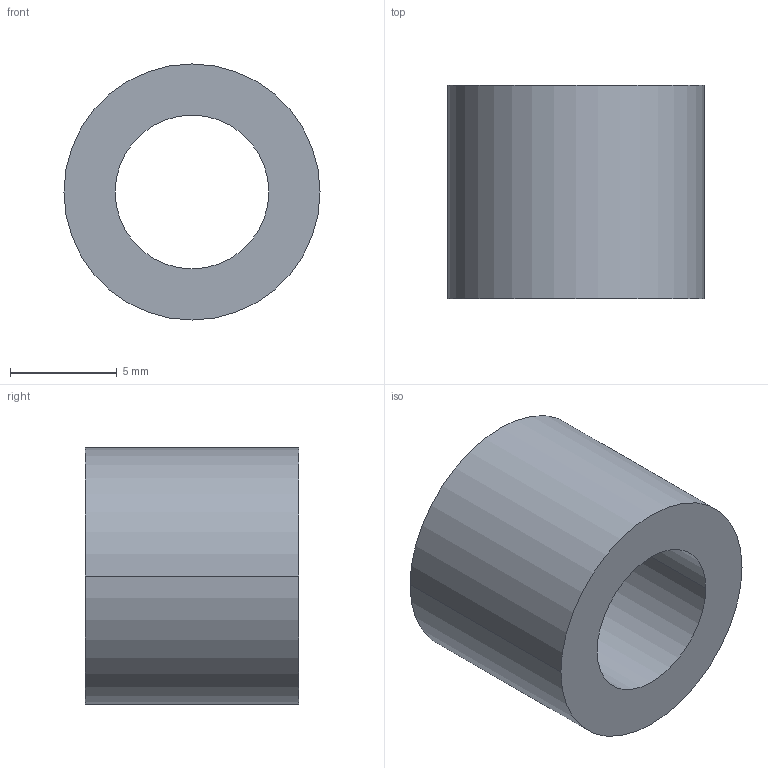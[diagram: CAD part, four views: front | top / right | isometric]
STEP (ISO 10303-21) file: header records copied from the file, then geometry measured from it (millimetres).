
FILE_DESCRIPTION (( 'STEP AP203' ), '1' );
FILE_NAME ('30800.WPP12D7.2.step', '2019-01-23T22:27:24', ( '' ), ( '' ), 'SwSTEP 2.0', 'SolidWorks 2017', '' );
FILE_SCHEMA (( 'CONFIG_CONTROL_DESIGN' ));
Length unit declared in the file: millimetre
Products named in the file (1): 30800.WPP12D7.2
Bounding box: 12 x 10 x 12 mm (x, y, z)
Volume: 711.9 mm3; surface area: 734.4 mm2
Topology: 1 solids, 1 shells, 8 faces, 16 edges, 10 vertices
Faces by surface type: cylinder 4, torus 2, plane 2
Entity records: 297 total; most frequent: DIRECTION 46, CARTESIAN_POINT 35, ORIENTED_EDGE 32, AXIS2_PLACEMENT_3D 21, EDGE_CURVE 16, CIRCLE 12, VERTEX_POINT 10, EDGE_LOOP 10
